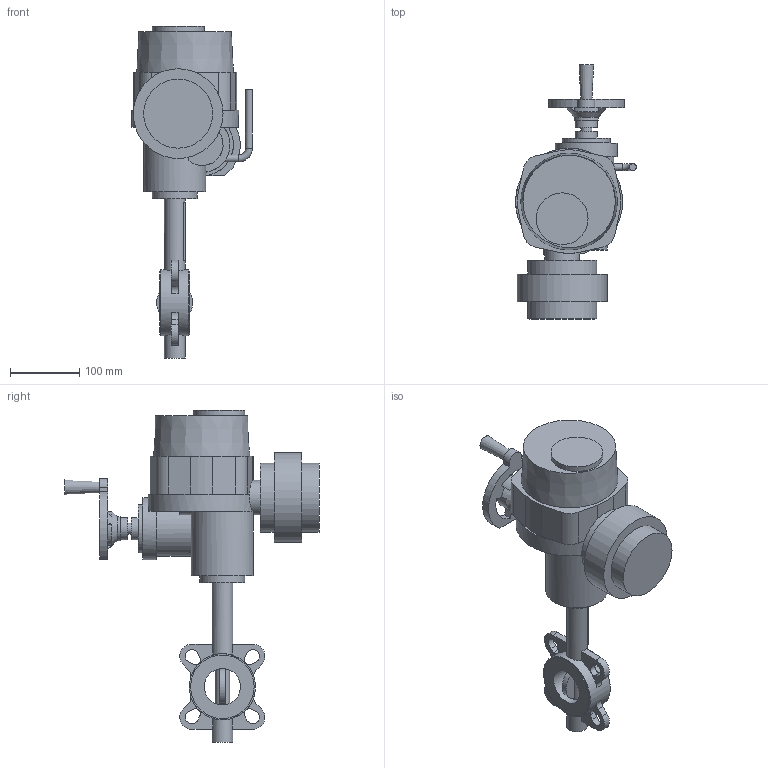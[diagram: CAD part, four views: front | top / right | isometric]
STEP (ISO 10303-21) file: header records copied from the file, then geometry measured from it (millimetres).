
FILE_DESCRIPTION(('STEP AP203'), '1');
FILE_NAME('Çàòâîð 017W.Z(÷óãóí) DN50+ÝÏ QT.A005', '', ('UNSPECIFIED'), ('UNSPECIFIED'), 'ASCON STEP Converter 1.6', 'ASCON Math Kernel', '');
FILE_SCHEMA(('CONFIG_CONTROL_DESIGN'));
Length unit declared in the file: millimetre
Bounding box: 175 x 368 x 481 mm (x, y, z)
Volume: 4556484.4 mm3; surface area: 317343 mm2
Topology: 1 solids, 2 shells, 713 faces, 2052 edges, 1317 vertices
Faces by surface type: cylinder 476, plane 233, cone 3, torus 1
Full cylindrical faces by diameter (mm): 6.7 x8, 8 x4, 10 x2, 12.6 x1, 16 x1, 20 x1, 21 x1, 30 x2, 32 x2, 35 x2, 50 x1, 52.6 x1, 65 x1, 70 x1, 75 x1, 90 x2, 92 x2, 96 x1, 100 x2, 130 x1
Entity records: 30590 total; most frequent: CARTESIAN_POINT 5320, DIRECTION 4459, ORIENTED_EDGE 3961, EDGE_CURVE 2012, AXIS2_PLACEMENT_3D 1761, VERTEX_POINT 1317, CIRCLE 1047, LINE 937
